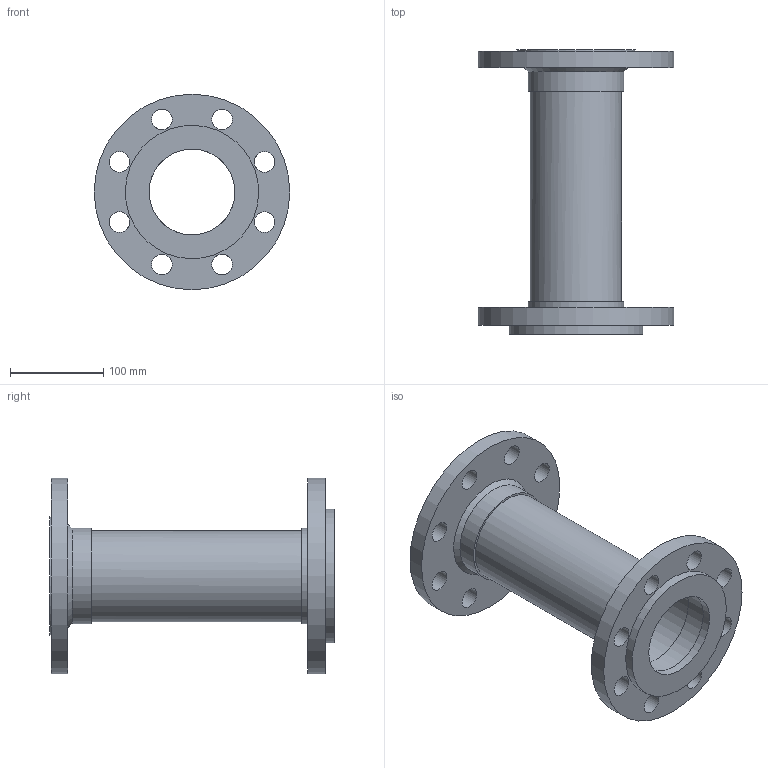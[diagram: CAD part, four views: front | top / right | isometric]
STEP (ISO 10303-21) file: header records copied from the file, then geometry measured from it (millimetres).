
FILE_DESCRIPTION(/* description */ (''),/* implementation_level */ '2;1');
FILE_NAME(/* name */ 'C:\001_Work\Designs\FFL2B-300\FFL2B-300-3x12.stp',/* time_stamp */ '2016-06-14T10:23:00-04:00',/* author */ ('rramoutar'),/* organization */ ('Mason Industries Inc.'),/* preprocessor_version */ 'ST-DEVELOPER v15.6',/* originating_system */ 'Autodesk Inventor 2015',/* authorisation */ '');
FILE_SCHEMA (('CONFIG_CONTROL_DESIGN'));
Length unit declared in the file: inch
Products named in the file (1): FFL2B-300-3x12
Bounding box: 209.55 x 304.8 x 209.55 mm (x, y, z)
Volume: 1026998 mm3; surface area: 334197.4 mm2
Topology: 1 solids, 1 shells, 41 faces, 107 edges, 77 vertices
Faces by surface type: cylinder 27, plane 11, cone 3
Full cylindrical faces by diameter (mm): 22.225 x16, 92.075 x2, 97.028 x1, 97.841 x1, 102.603 x2, 107.95 x1, 127 x1, 142.875 x1, 209.55 x2
Entity records: 1133 total; most frequent: DIRECTION 198, CARTESIAN_POINT 156, EDGE_LOOP 114, ORIENTED_EDGE 114, AXIS2_PLACEMENT_3D 99, FACE_BOUND 73, CIRCLE 57, VERTEX_POINT 57
